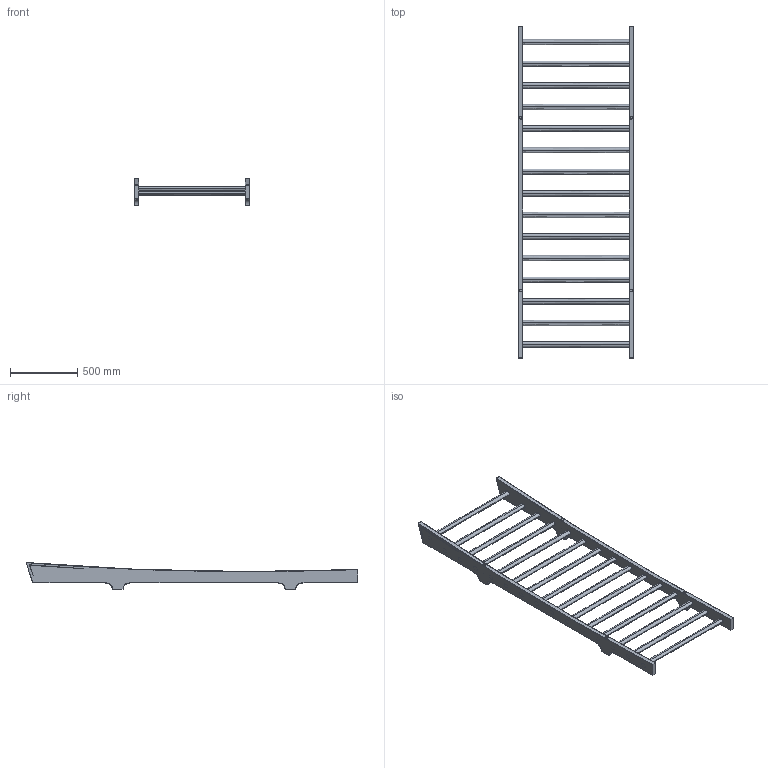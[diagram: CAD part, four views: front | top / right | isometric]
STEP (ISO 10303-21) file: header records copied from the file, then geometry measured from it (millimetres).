
FILE_DESCRIPTION(/* description */ (''),/* implementation_level */ '2;1');
FILE_NAME(/* name */ 'Eternal_Creek_3D_Model_REED_Wall_Bar.step',/* time_stamp */ '2025-10-09T16:05:49+03:00',/* author */ (''),/* organization */ (''),/* preprocessor_version */ 'ST-DEVELOPER v20.1',/* originating_system */ 'Autodesk Translation Framework v14.17.0.0',/* authorisation */ '');
FILE_SCHEMA (('AUTOMOTIVE_DESIGN { 1 0 10303 214 3 1 1 }'));
Length unit declared in the file: millimetre
Products named in the file (8): TEMP 3D EXPORT - S - KOPĖ - KOPĖ V04 - WITHOUT 
CROSSBARS; SIDE RAILS; SIDE RAIL - LEFT; SIDE RAIL - RIGHT; RUNGS; RUNG; PLUGS; PLUG
Assembly tree (24 placements, depth 3):
  TEMP 3D EXPORT - S - KOPĖ - KOPĖ V04 - WITHOUT 
CROSSBARS
    SIDE RAILS
      SIDE RAIL - LEFT
      SIDE RAIL - RIGHT
    RUNGS
      RUNG  x15
    PLUGS
      PLUG  x4
Bounding box: 850 x 2459.57 x 199.87 mm (x, y, z)
Volume: 27491576.9 mm3; surface area: 2923065.6 mm2
Topology: 21 solids, 21 shells, 640 faces, 1588 edges, 952 vertices
Faces by surface type: bspline 346, cylinder 124, plane 114, sphere 32, torus 24
Full cylindrical faces by diameter (mm): 3 x30, 5 x30, 10.5 x4, 14.1 x8, 19 x4, 19.6 x12, 20 x4
Entity records: 29566 total; most frequent: CARTESIAN_POINT 20228, ORIENTED_EDGE 2242, DIRECTION 1333, EDGE_CURVE 1121, VERTEX_POINT 662, EDGE_LOOP 559, AXIS2_PLACEMENT_3D 521, FACE_OUTER_BOUND 477
